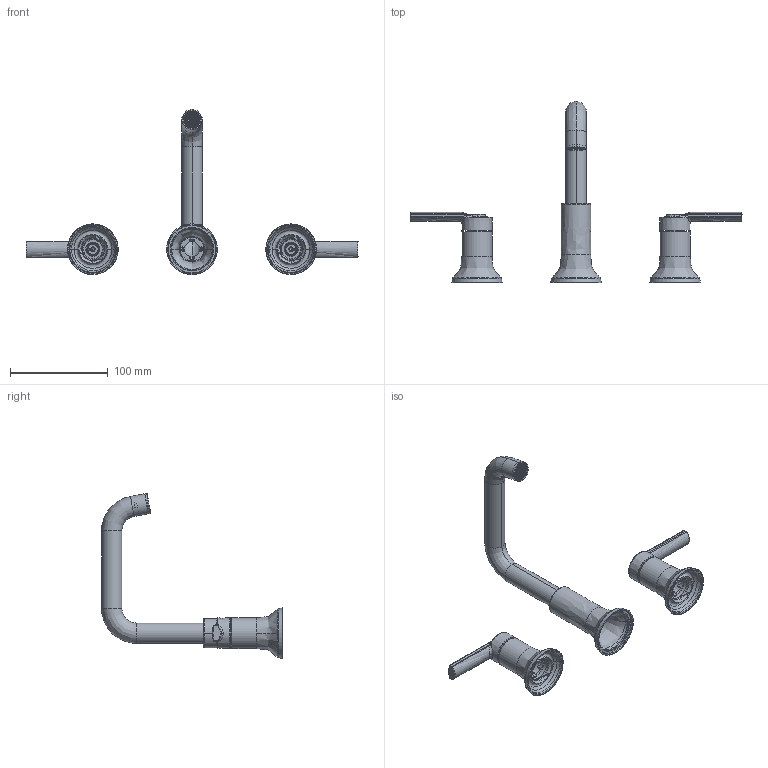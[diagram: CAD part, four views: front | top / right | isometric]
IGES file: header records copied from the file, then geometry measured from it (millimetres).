
Start section: SolidWorks IGES file using analytic representation for surfaces
Global section: file name: C:\Users\arao\Desktop\Project-Aricia\6830-03001_Neutral File\sku_84142series_igs.IGS; native system: SolidWorks 2023; preprocessor: SolidWorks 2023; author: arao; date: 250402.101015; units: inch
Bounding box: 340.36 x 185.46 x 169.28 mm (x, y, z)
Volume: 140352.4 mm3; surface area: 92615.1 mm2
Topology: 9 solids, 9 shells, 3407 faces, 9384 edges, 5824 vertices
Faces by surface type: plane 1930, revolution 1110, bspline 367
